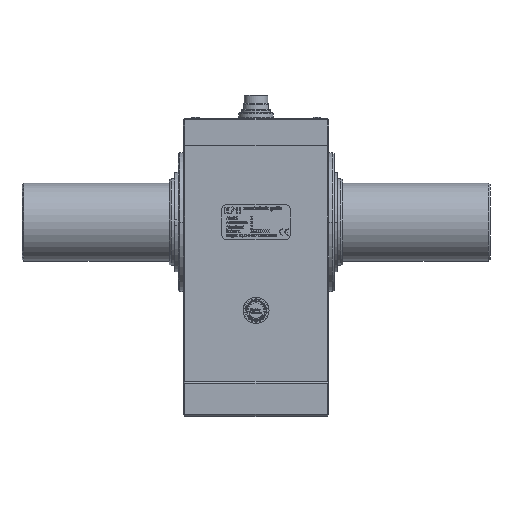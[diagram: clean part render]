
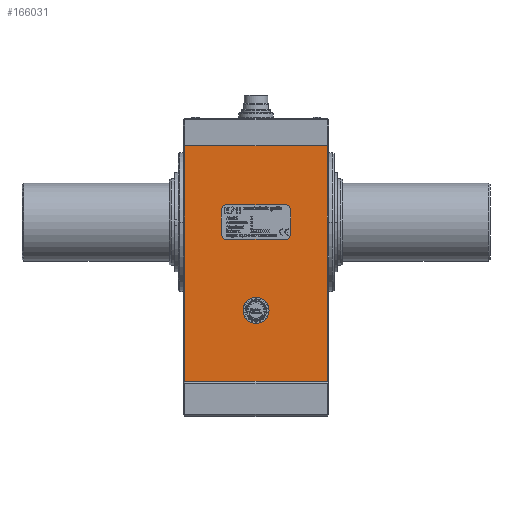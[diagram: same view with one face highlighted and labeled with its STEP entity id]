
A CAD part, top view. The second image highlights one B-rep face of the part: STEP entity #166031.
In plain terms, the highlighted planar face has unit normal (0, 0, 1).
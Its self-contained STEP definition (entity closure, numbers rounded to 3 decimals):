
#13442 = DIRECTION ( 'NONE',  ( 0., 1., 0. ) ) ;
#19565 = CARTESIAN_POINT ( 'NONE',  ( -84., -92., 44. ) ) ;
#26638 = VERTEX_POINT ( 'NONE', #35431 ) ;
#35431 = CARTESIAN_POINT ( 'NONE',  ( -83., -92., 44. ) ) ;
#38390 = ORIENTED_EDGE ( 'NONE', *, *, #173672, .F. ) ;
#45386 = LINE ( 'NONE', #59256, #155659 ) ;
#46460 = CARTESIAN_POINT ( 'NONE',  ( -83., 44., 44. ) ) ;
#49597 = VERTEX_POINT ( 'NONE', #113544 ) ;
#49790 = CARTESIAN_POINT ( 'NONE',  ( -84., 44., 44. ) ) ;
#51740 = FACE_OUTER_BOUND ( 'NONE', #66485, .T. ) ;
#54446 = VERTEX_POINT ( 'NONE', #46460 ) ;
#59256 = CARTESIAN_POINT ( 'NONE',  ( -84., 44., 44. ) ) ;
#61375 = DIRECTION ( 'NONE',  ( -1., 0., 0. ) ) ;
#62753 = VERTEX_POINT ( 'NONE', #138373 ) ;
#63647 = DIRECTION ( 'NONE',  ( 0., -1., 0. ) ) ;
#64299 = EDGE_CURVE ( 'NONE', #49597, #26638, #155873, .T. ) ;
#66485 = EDGE_LOOP ( 'NONE', ( #195738, #103322, #38390, #70538 ) ) ;
#69264 = EDGE_CURVE ( 'NONE', #49597, #62753, #101296, .T. ) ;
#70538 = ORIENTED_EDGE ( 'NONE', *, *, #98054, .T. ) ;
#81707 = CARTESIAN_POINT ( 'NONE',  ( -83., -44., 44. ) ) ;
#82397 = VECTOR ( 'NONE', #191089, 1000. ) ;
#98054 = EDGE_CURVE ( 'NONE', #54446, #26638, #160170, .T. ) ;
#101296 = LINE ( 'NONE', #102255, #176928 ) ;
#102255 = CARTESIAN_POINT ( 'NONE',  ( -1., 44., 44. ) ) ;
#103322 = ORIENTED_EDGE ( 'NONE', *, *, #69264, .T. ) ;
#112474 = PLANE ( 'NONE',  #153329 ) ;
#113544 = CARTESIAN_POINT ( 'NONE',  ( -1., -92., 44. ) ) ;
#138373 = CARTESIAN_POINT ( 'NONE',  ( -1., 44., 44. ) ) ;
#142208 = DIRECTION ( 'NONE',  ( 0., 0., 1. ) ) ;
#153329 = AXIS2_PLACEMENT_3D ( 'NONE', #49790, #142208, #63647 ) ;
#155659 = VECTOR ( 'NONE', #196605, 1000. ) ;
#155873 = LINE ( 'NONE', #19565, #187937 ) ;
#160170 = LINE ( 'NONE', #81707, #82397 ) ;
#166031 = ADVANCED_FACE ( 'NONE', ( #51740 ), #112474, .T. ) ;
#173672 = EDGE_CURVE ( 'NONE', #54446, #62753, #45386, .T. ) ;
#176928 = VECTOR ( 'NONE', #13442, 1000. ) ;
#187937 = VECTOR ( 'NONE', #61375, 1000. ) ;
#191089 = DIRECTION ( 'NONE',  ( 0., -1., 0. ) ) ;
#195738 = ORIENTED_EDGE ( 'NONE', *, *, #64299, .F. ) ;
#196605 = DIRECTION ( 'NONE',  ( 1., 0., 0. ) ) ;
